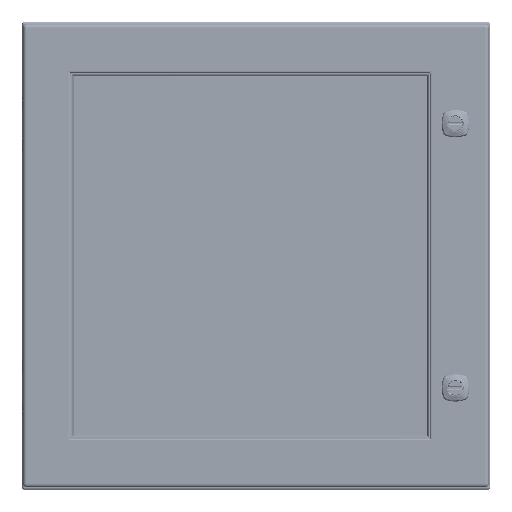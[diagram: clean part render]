
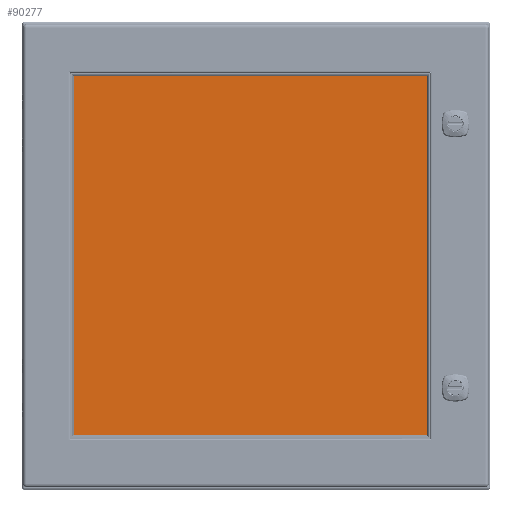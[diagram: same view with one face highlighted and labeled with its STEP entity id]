
A CAD part, top view. The second image highlights one B-rep face of the part: STEP entity #90277.
In plain terms, the highlighted planar face has unit normal (0, 0, 1).
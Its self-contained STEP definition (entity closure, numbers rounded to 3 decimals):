
#9797=LINE('',#150941,#15959);
#9803=LINE('',#150961,#15965);
#9806=LINE('',#150969,#15968);
#9808=LINE('',#150975,#15970);
#15959=VECTOR('',#108957,0.394);
#15965=VECTOR('',#108977,0.394);
#15968=VECTOR('',#108986,0.394);
#15970=VECTOR('',#108994,0.394);
#23726=FACE_OUTER_BOUND('',#29270,.T.);
#29270=EDGE_LOOP('',(#68172,#68173,#68174,#68175,#68176,#68177,#68178,#68179));
#34168=CIRCLE('',#97409,0.25);
#34173=CIRCLE('',#97417,0.25);
#34174=CIRCLE('',#97420,0.25);
#34175=CIRCLE('',#97423,0.25);
#38970=VERTEX_POINT('',#150928);
#38971=VERTEX_POINT('',#150929);
#38975=VERTEX_POINT('',#150939);
#38981=VERTEX_POINT('',#150955);
#38982=VERTEX_POINT('',#150959);
#38983=VERTEX_POINT('',#150963);
#38984=VERTEX_POINT('',#150967);
#38985=VERTEX_POINT('',#150971);
#49468=EDGE_CURVE('',#38970,#38971,#34168,.T.);
#49474=EDGE_CURVE('',#38975,#38970,#9797,.T.);
#49481=EDGE_CURVE('',#38981,#38975,#34173,.T.);
#49484=EDGE_CURVE('',#38982,#38981,#9803,.T.);
#49485=EDGE_CURVE('',#38983,#38982,#34174,.T.);
#49488=EDGE_CURVE('',#38984,#38983,#9806,.T.);
#49489=EDGE_CURVE('',#38985,#38984,#34175,.T.);
#49491=EDGE_CURVE('',#38971,#38985,#9808,.T.);
#68172=ORIENTED_EDGE('',*,*,#49468,.F.);
#68173=ORIENTED_EDGE('',*,*,#49474,.F.);
#68174=ORIENTED_EDGE('',*,*,#49481,.F.);
#68175=ORIENTED_EDGE('',*,*,#49484,.F.);
#68176=ORIENTED_EDGE('',*,*,#49485,.F.);
#68177=ORIENTED_EDGE('',*,*,#49488,.F.);
#68178=ORIENTED_EDGE('',*,*,#49489,.F.);
#68179=ORIENTED_EDGE('',*,*,#49491,.F.);
#86775=PLANE('',#97425);
#90277=ADVANCED_FACE('',(#23726),#86775,.T.);
#97409=AXIS2_PLACEMENT_3D('',#150930,#108947,#108948);
#97417=AXIS2_PLACEMENT_3D('',#150956,#108971,#108972);
#97420=AXIS2_PLACEMENT_3D('',#150964,#108980,#108981);
#97423=AXIS2_PLACEMENT_3D('',#150972,#108989,#108990);
#97425=AXIS2_PLACEMENT_3D('',#150976,#108995,#108996);
#108947=DIRECTION('center_axis',(0.,0.,-1.));
#108948=DIRECTION('ref_axis',(-0.707,-0.707,0.));
#108957=DIRECTION('',(-1.,0.,0.));
#108971=DIRECTION('center_axis',(0.,0.,-1.));
#108972=DIRECTION('ref_axis',(0.707,-0.707,0.));
#108977=DIRECTION('',(0.,-1.,0.));
#108980=DIRECTION('center_axis',(0.,0.,-1.));
#108981=DIRECTION('ref_axis',(0.707,0.707,0.));
#108986=DIRECTION('',(1.,0.,0.));
#108989=DIRECTION('center_axis',(0.,0.,-1.));
#108990=DIRECTION('ref_axis',(-0.707,0.707,0.));
#108994=DIRECTION('',(0.,1.,0.));
#108995=DIRECTION('center_axis',(0.,0.,1.));
#108996=DIRECTION('ref_axis',(1.,0.,0.));
#150928=CARTESIAN_POINT('',(-7.813,-8.188,0.25));
#150929=CARTESIAN_POINT('',(-8.063,-7.937,0.25));
#150930=CARTESIAN_POINT('Origin',(-7.813,-7.938,0.25));
#150939=CARTESIAN_POINT('',(7.813,-8.188,0.25));
#150941=CARTESIAN_POINT('',(-8.063,-8.188,0.25));
#150955=CARTESIAN_POINT('',(8.063,-7.937,0.25));
#150956=CARTESIAN_POINT('Origin',(7.813,-7.937,0.25));
#150959=CARTESIAN_POINT('',(8.063,7.938,0.25));
#150961=CARTESIAN_POINT('',(8.063,-8.188,0.25));
#150963=CARTESIAN_POINT('',(7.812,8.188,0.25));
#150964=CARTESIAN_POINT('Origin',(7.812,7.938,0.25));
#150967=CARTESIAN_POINT('',(-7.812,8.188,0.25));
#150969=CARTESIAN_POINT('',(8.063,8.188,0.25));
#150971=CARTESIAN_POINT('',(-8.063,7.938,0.25));
#150972=CARTESIAN_POINT('Origin',(-7.813,7.938,0.25));
#150975=CARTESIAN_POINT('',(-8.063,8.188,0.25));
#150976=CARTESIAN_POINT('Origin',(0.,0.,
0.25));
